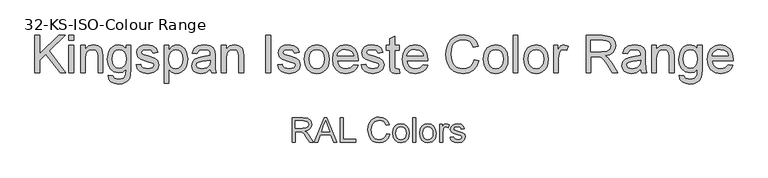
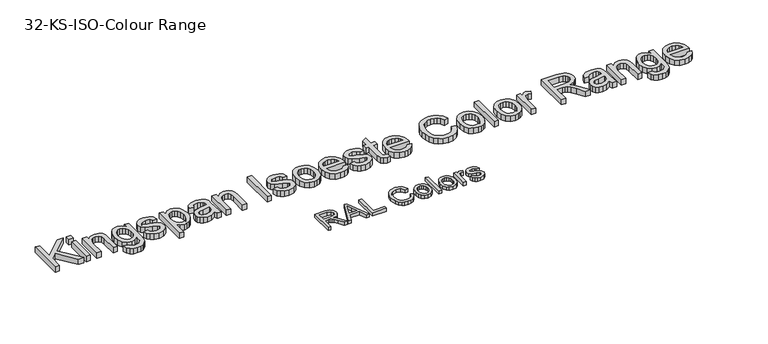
"""IFC4 building model written with IfcOpenShell, lengths in millimetres: proxy geometry, 32-KS-ISO-Colour Range : Kingspan Isoeste Color Range."""

import ifcopenshell
import ifcopenshell.guid

model = None  # the IFC model being written
_history = None  # IfcOwnerHistory: only IFC2X3 demands one
_inside = {}  # id of a spatial element -> (the spatial element, [elements in it])
_under = {}  # id of a project, library or spatial element -> (it, [spatial elements below it])
_declared = {}  # id of a project -> (the project, [libraries it declares])
_typed = {}  # id of a type object -> (the type object, [elements of that type])
_made_of = {}  # id of a material, layer set ... -> (it, [elements and type objects made of it])


def new_model(schema):
    """Start an empty IFC model of exactly this schema.

    Asked for "IFC4X3", IfcOpenShell would pick the latest addendum, in which some entities
    have other attributes; the version numbers below select the first issue.
    IFC2X3 requires an IfcOwnerHistory on every rooted entity: one is made here for all.
    """
    global model, _history
    if schema == "IFC4X3":
        model = ifcopenshell.file(schema_version=(4, 3, 0, 0))
    else:
        model = ifcopenshell.file(schema=schema)
    _inside.clear()
    _under.clear()
    _declared.clear()
    _typed.clear()
    _made_of.clear()
    _history = None
    if model.schema == "IFC2X3":
        org = make("IfcOrganization", Name="unknown")
        user = make(
            "IfcPersonAndOrganization",
            ThePerson=make("IfcPerson", FamilyName="unknown"),
            TheOrganization=org,
        )
        app = make(
            "IfcApplication",
            ApplicationDeveloper=org,
            Version="unknown",
            ApplicationFullName="unknown",
            ApplicationIdentifier="unknown",
        )
        _history = make(
            "IfcOwnerHistory",
            OwningUser=user,
            OwningApplication=app,
            ChangeAction="ADDED",
            CreationDate=0,
        )
    return model


def make(cls, **values):
    """One entity of the class cls with the attributes given. An attribute that is None is left unset."""
    return model.create_entity(
        cls, **{name: value for name, value in values.items() if value is not None}
    )


def rooted(cls, **values):
    """An entity with a GlobalId (a new one), such as an element, a storey or a relation."""
    return make(cls, GlobalId=ifcopenshell.guid.new(), OwnerHistory=_history, **values)


def si_unit(unit_type, name, prefix=None):
    """IfcSIUnit, for example si_unit("LENGTHUNIT", "METRE", prefix="MILLI")."""
    return make("IfcSIUnit", UnitType=unit_type, Prefix=prefix, Name=name)


def assignment(units):
    """IfcUnitAssignment: the units of a project."""
    return None if units is None else make("IfcUnitAssignment", Units=units)


def point(xyz):
    """IfcCartesianPoint."""
    return None if xyz is None else make("IfcCartesianPoint", Coordinates=xyz)


def direction(xyz):
    """IfcDirection."""
    return None if xyz is None else make("IfcDirection", DirectionRatios=xyz)


def frame(location, z_axis=None, x_axis=None):
    """IfcAxis2Placement3D, a coordinate frame: its origin and axes. An axis left out is left unset."""
    return make(
        "IfcAxis2Placement3D",
        Location=point(location),
        Axis=direction(z_axis),
        RefDirection=direction(x_axis),
    )


def origin():
    """The frame at (0, 0, 0) with its axes left unset."""
    return frame((0.0, 0.0, 0.0))


def origin_with_axes():
    """The frame at (0, 0, 0) with the z axis (0, 0, 1) and the x axis (1, 0, 0) written out."""
    return frame((0.0, 0.0, 0.0), z_axis=(0.0, 0.0, 1.0), x_axis=(1.0, 0.0, 0.0))


def place(relative_to, where):
    """IfcLocalPlacement: puts the frame where relative to a parent placement (None: the world)."""
    return make(
        "IfcLocalPlacement", PlacementRelTo=relative_to, RelativePlacement=where
    )


def context(
    kind, dimensions, precision=None, world=None, true_north=None, identifier=None
):
    """IfcGeometricRepresentationContext, for example the 3D "Model" context."""
    return make(
        "IfcGeometricRepresentationContext",
        ContextIdentifier=identifier,
        ContextType=kind,
        CoordinateSpaceDimension=dimensions,
        Precision=precision,
        WorldCoordinateSystem=world,
        TrueNorth=true_north,
    )


def project(units=None, contexts=None):
    """IfcProject with its units and contexts."""
    return rooted(
        "IfcProject",
        Name="project",
        RepresentationContexts=contexts,
        UnitsInContext=assignment(units),
    )


def spatial(cls, under=None, at=None, **own):
    """A site, building, storey or space (cls), placed at a placement, below another one or the project."""
    s = rooted(cls, ObjectPlacement=at, **own)
    if under is not None:
        _under.setdefault(under.id(), (under, []))[1].append(s)
    return s


def polyline(points):
    """IfcPolyline through the points."""
    return make("IfcPolyline", Points=[point(p) for p in points])


def outline(outer, holes=None, kind="AREA"):
    """IfcArbitraryClosedProfileDef: a profile drawn as a closed curve; with holes, ...WithVoids."""
    if holes is None:
        return make("IfcArbitraryClosedProfileDef", ProfileType=kind, OuterCurve=outer)
    return make(
        "IfcArbitraryProfileDefWithVoids",
        ProfileType=kind,
        OuterCurve=outer,
        InnerCurves=holes,
    )


def extrude(swept, where, along, depth):
    """IfcExtrudedAreaSolid: the profile swept, set in the frame where, extruded along a direction by depth."""
    return make(
        "IfcExtrudedAreaSolid",
        SweptArea=swept,
        Position=where,
        ExtrudedDirection=direction(along),
        Depth=depth,
    )


def shape(context_of_items, identifier, shape_type, items):
    """IfcShapeRepresentation: the items that make up one representation, for example the "Body"."""
    return make(
        "IfcShapeRepresentation",
        ContextOfItems=context_of_items,
        RepresentationIdentifier=identifier,
        RepresentationType=shape_type,
        Items=items,
    )


def source(mapping_origin, context_of_items, identifier, shape_type, items):
    """IfcRepresentationMap: a shape defined once, which mapped items show again and again."""
    return make(
        "IfcRepresentationMap",
        MappingOrigin=mapping_origin,
        MappedRepresentation=shape(context_of_items, identifier, shape_type, items),
    )


def transform(
    local_origin,
    x_axis=None,
    y_axis=None,
    z_axis=None,
    scale=None,
    scale2=None,
    scale3=None,
    uniform=True,
):
    """IfcCartesianTransformationOperator3D, or its non-uniform kind. x_axis, y_axis, z_axis: its Axis1, 2, 3."""
    if uniform:
        return make(
            "IfcCartesianTransformationOperator3D",
            Axis1=direction(x_axis),
            Axis2=direction(y_axis),
            LocalOrigin=point(local_origin),
            Scale=scale,
            Axis3=direction(z_axis),
        )
    return make(
        "IfcCartesianTransformationOperator3DnonUniform",
        Axis1=direction(x_axis),
        Axis2=direction(y_axis),
        LocalOrigin=point(local_origin),
        Scale=scale,
        Axis3=direction(z_axis),
        Scale2=scale2,
        Scale3=scale3,
    )


def mapped(mapping_source, mapping_target):
    """IfcMappedItem: shows the shape of a source again, moved by a transform."""
    return make(
        "IfcMappedItem", MappingSource=mapping_source, MappingTarget=mapping_target
    )


def made_of(thing, what):
    """Note that an element or type object is made of a material, layer set ...; save() writes the relation."""
    if what is not None:
        _made_of.setdefault(what.id(), (what, []))[1].append(thing)
    return thing


def element(
    cls,
    number,
    at=None,
    inside=None,
    cuts=None,
    type_object=None,
    material=None,
    context=None,
    identifier="Body",
    shape_type=None,
    held_by="IfcProductDefinitionShape",
    body=None,
    shapes=None,
    **own,
):
    """One element of the class cls, such as IfcWall. Its Tag is "e" and its number.

    at: its placement. inside: the storey or other place that contains it. cuts: it is an
    opening in that element (IfcRelVoidsElement). A single representation is given by context,
    identifier, shape_type and body (its items); several are given by shapes. held_by: the class
    of the entity that holds the representations. save() writes the other relations.
    """
    e = rooted(cls, Tag="e%d" % number, ObjectPlacement=at, **own)
    if body is not None:
        shapes = [shape(context, identifier, shape_type, body)]
    if shapes is not None:
        e.Representation = make(held_by, Representations=shapes)
    if inside is not None:
        _inside.setdefault(inside.id(), (inside, []))[1].append(e)
    if cuts is not None:
        rooted(
            "IfcRelVoidsElement", RelatingBuildingElement=cuts, RelatedOpeningElement=e
        )
    if type_object is not None:
        _typed.setdefault(type_object.id(), (type_object, []))[1].append(e)
    return made_of(e, material)


def aggregate(whole, parts):
    """IfcRelAggregates: a whole, such as a stair, and the parts it consists of."""
    return rooted("IfcRelAggregates", RelatingObject=whole, RelatedObjects=parts)


def save(model, path):
    """Write the relations noted so far, then the file.

    IfcRelAggregates (storeys below a building ...), IfcRelContainedInSpatialStructure (elements
    in a storey), IfcRelDefinesByType, IfcRelAssociatesMaterial and IfcRelDeclares: one each for
    every whole, place, type object, material and project.
    """
    for whole, parts in _under.values():
        aggregate(whole, parts)
    for where, things in _inside.values():
        rooted(
            "IfcRelContainedInSpatialStructure",
            RelatedElements=things,
            RelatingStructure=where,
        )
    for kind, things in _typed.values():
        rooted("IfcRelDefinesByType", RelatedObjects=things, RelatingType=kind)
    for what, things in _made_of.values():
        rooted("IfcRelAssociatesMaterial", RelatedObjects=things, RelatingMaterial=what)
    for by, libraries in _declared.values():
        rooted("IfcRelDeclares", RelatingContext=by, RelatedDefinitions=libraries)
    model.write(path)


def proxy_32_ks_iso_colour_range_06d69407(model_context):
    return source(origin(), model_context, "Body", "SweptSolid", [
        extrude(outline(polyline([(-1397.4013121, 700.0), (-1397.4013121, 850.6844652), (-1378.5657539, 850.6844652), (-1378.5657539, 776.9241252), (-1301.310535, 850.6844652), (-1274.9701841, 850.6844652), (-1339.8277798, 788.7331372), (-1272.6157393, 700.0), (-1295.6451522, 700.0), (-1353.1818963, 776.0044202), (-1378.5657539, 751.7977849), (-1378.5657539, 700.0), (-1397.4013121, 700.0)])), origin_with_axes(), (0.0, 0.0, 1.0), 25.0),
        extrude(outline(polyline([(-1260.8435155, 831.8489071), (-1260.8435155, 850.6844652), (-1242.0079573, 850.6844652), (-1242.0079573, 831.8489071), (-1260.8435155, 831.8489071)])), origin_with_axes(), (0.0, 0.0, 1.0), 25.0),
        extrude(outline(polyline([(-1260.8435155, 700.0), (-1260.8435155, 810.6589041), (-1242.0079573, 810.6589041), (-1242.0079573, 700.0), (-1260.8435155, 700.0)])), origin_with_axes(), (0.0, 0.0, 1.0), 25.0),
        extrude(outline(polyline([(-1213.7546201, 700.0), (-1213.7546201, 810.6589041), (-1194.9190619, 810.6589041), (-1194.9190619, 795.2078604), (-1180.5164818, 808.5619768), (-1160.8531892, 813.0133489), (-1143.0660947, 809.4264995), (-1130.9259889, 800.0087204), (-1125.2790003, 786.1579633), (-1124.2857189, 767.9478045), (-1124.2857189, 700.0), (-1143.121277, 700.0), (-1143.121277, 765.4094187), (-1145.2917808, 782.0744731), (-1152.9621204, 790.8852469), (-1165.8931725, 794.1777908), (-1176.9250339, 792.3291837), (-1186.3290174, 786.7833627), (-1192.7715508, 776.0687996), (-1194.9190619, 758.7139664), (-1194.9190619, 700.0), (-1213.7546201, 700.0)])), origin_with_axes(), (0.0, 0.0, 1.0), 25.0),
        extrude(outline(polyline([(-1103.095716, 690.5822209), (-1084.2601578, 688.2277762), (-1078.1533167, 678.2949623), (-1059.8695815, 674.1011075), (-1040.592565, 678.8467853), (-1031.3955151, 692.1641135), (-1030.1079281, 714.1266686), (-1043.370074, 703.5316672), (-1059.5384877, 700.0), (-1078.9580585, 704.1110813), (-1093.4388136, 716.4443252), (-1102.4473239, 734.5257252), (-1105.4501607, 755.8812751), (-1100.0606895, 785.0727114), (-1093.4664047, 796.9231102), (-1084.4624929, 805.7292854), (-1073.3570552, 811.192333), (-1060.4581927, 813.0133489), (-1043.6551826, 808.8930706), (-1030.1079281, 796.5322355), (-1030.1079281, 810.6589041), (-1011.27237, 810.6589041), (-1011.27237, 715.11995), (-1012.5599569, 693.0608259), (-1016.4227179, 678.5340856), (-1023.0767835, 668.9001758), (-1032.7382844, 661.5195433), (-1045.1956884, 656.8290479), (-1060.2374635, 655.2655494), (-1077.7624421, 657.4682428), (-1091.5626154, 664.0763232), (-1100.4147759, 675.1081845), (-1103.095716, 690.5822209)]), holes=[polyline([(-1086.6146026, 757.1688621), (-1084.6050472, 739.8922039), (-1078.576381, 728.0142139), (-1069.5126883, 721.1302221), (-1058.3980535, 718.8355582), (-1047.3661922, 721.1164265), (-1038.2565143, 727.9590316), (-1032.1450747, 739.6852702), (-1030.1079281, 756.6170391), (-1032.2048555, 772.9464011), (-1038.4956376, 784.7048294), (-1047.7386727, 791.8095504), (-1058.6923591, 794.1777908), (-1069.448309, 791.8463386), (-1078.4660164, 784.8519822), (-1084.577456, 773.2682979), (-1086.6146026, 757.1688621)])]), origin_with_axes(), (0.0, 0.0, 1.0), 25.0),
        extrude(outline(polyline([(-990.082367, 732.9622268), (-971.2468089, 735.3166715), (-968.2761618, 727.2600558), (-962.5280056, 721.3371557), (-942.5520133, 716.4811134), (-923.3485731, 720.9324855), (-917.0945792, 731.3803342), (-918.6672747, 736.1811942), (-923.3853613, 739.8416201), (-942.7727425, 745.2126972), (-971.1364443, 754.4281412), (-983.5156734, 765.1886895), (-987.7279223, 780.3822159), (-984.3434079, 794.4169141), (-975.1095698, 805.1406742), (-963.1350109, 810.7140864), (-946.929809, 813.0133489), (-924.0107607, 809.3161349), (-909.4426337, 799.3097446), (-902.9679106, 782.4055669), (-921.8034687, 780.0511222), (-928.8851971, 790.4437885), (-945.458281, 794.1777908), (-963.4844988, 790.6093354), (-968.8923641, 782.2952023), (-966.6482839, 776.8137606), (-959.6217378, 772.656694), (-943.3981418, 768.6467803), (-915.7518099, 759.7808242), (-902.9127283, 749.7376457), (-898.259021, 733.366897), (-903.7220687, 715.3406792), (-919.4858122, 702.2624743), (-942.8095307, 697.6455552), (-961.8014387, 699.8712413), (-975.6613928, 706.5482995), (-984.913625, 717.6031535), (-990.082367, 732.9622268)])), origin_with_axes(), (0.0, 0.0, 1.0), 25.0),
        extrude(outline(polyline([(-877.0690181, 657.6199942), (-877.0690181, 810.6589041), (-858.23346, 810.6589041), (-858.23346, 792.191228), (-845.2104373, 807.8078187), (-827.625678, 813.0133489), (-814.8877639, 811.192333), (-803.7501365, 805.7292854), (-794.6818453, 796.9552998), (-788.1519399, 785.2014701), (-782.8912273, 756.1755807), (-784.3765509, 740.0669478), (-788.8325216, 725.6597692), (-796.1165851, 713.6852102), (-806.0861871, 704.8744364), (-817.6974626, 699.4527755), (-829.9065463, 697.6455552), (-846.2956892, 702.4832035), (-858.23346, 714.7152798), (-858.23346, 657.6199942), (-877.0690181, 657.6199942)]), holes=[polyline([(-858.23346, 754.4465353), (-856.1963134, 737.5607517), (-850.0848738, 725.7517397), (-841.0671664, 718.79877), (-830.3112165, 716.4811134), (-819.3805227, 718.8815434), (-810.1328891, 726.0828335), (-803.8283114, 738.3241068), (-801.7267855, 755.8444869), (-803.7777276, 772.6382999), (-809.930554, 784.6128589), (-818.9344658, 791.7865578), (-829.5386643, 794.1777908), (-840.1842496, 791.6348065), (-849.5330508, 784.0058536), (-856.0583577, 771.5300554), (-858.23346, 754.4465353)])]), origin_with_axes(), (0.0, 0.0, 1.0), 25.0),
        extrude(outline(polyline([(-691.0678814, 714.1266686), (-709.3332224, 701.3611634), (-729.5115498, 697.6455552), (-745.2523007, 699.8804384), (-756.8635762, 706.5850877), (-764.0234795, 716.7662219), (-766.410114, 729.4305596), (-762.8048704, 744.3297804), (-753.331909, 755.1455111), (-740.1433395, 761.3259286), (-723.8461671, 764.15862), (-691.178246, 770.6333431), (-691.0678814, 774.8271978), (-692.3646654, 783.2333014), (-696.2550175, 788.7331372), (-704.9554267, 792.8166274), (-717.0771384, 794.1777908), (-736.1334258, 790.5541531), (-745.220111, 777.6966774), (-764.0556692, 780.0511222), (-755.907083, 798.4452219), (-739.499546, 809.2241644), (-714.6491172, 813.0133489), (-691.8220394, 809.6656228), (-678.9277755, 801.2595192), (-673.1520282, 788.4756198), (-672.2323232, 771.9945065), (-672.2323232, 748.5604234), (-671.27583, 715.8373199), (-667.5234337, 700.0), (-686.3589918, 700.0), (-691.0678814, 714.1266686)]), holes=[polyline([(-691.0678814, 751.7977849), (-721.4549342, 746.0220376), (-737.660136, 742.968617), (-744.9993818, 738.0022101), (-747.5745558, 730.7549348), (-741.9643554, 720.5646035), (-725.5016361, 716.4811134), (-706.4453488, 720.9876678), (-694.1580901, 731.895369), (-691.178246, 746.463496), (-691.0678814, 751.7977849)])]), origin_with_axes(), (0.0, 0.0, 1.0), 25.0),
        extrude(outline(polyline([(-646.3334307, 700.0), (-646.3334307, 810.6589041), (-627.4978726, 810.6589041), (-627.4978726, 795.2078604), (-613.0952925, 808.5619768), (-593.4319998, 813.0133489), (-575.6449054, 809.4264995), (-563.5047995, 800.0087204), (-557.8578109, 786.1579633), (-556.8645295, 767.9478045), (-556.8645295, 700.0), (-575.7000877, 700.0), (-575.7000877, 765.4094187), (-577.8705914, 782.0744731), (-585.540931, 790.8852469), (-598.4719832, 794.1777908), (-609.5038445, 792.3291837), (-618.907828, 786.7833627), (-625.3503614, 776.0687996), (-627.4978726, 758.7139664), (-627.4978726, 700.0), (-646.3334307, 700.0)])), origin_with_axes(), (0.0, 0.0, 1.0), 25.0),
        extrude(outline(polyline([(-467.3956283, 700.0), (-467.3956283, 850.6844652), (-448.5600701, 850.6844652), (-448.5600701, 700.0), (-467.3956283, 700.0)])), origin_with_axes(), (0.0, 0.0, 1.0), 25.0),
        extrude(outline(polyline([(-420.3067329, 732.9622268), (-401.4711747, 735.3166715), (-398.5005276, 727.2600558), (-392.7523715, 721.3371557), (-372.7763791, 716.4811134), (-353.572939, 720.9324855), (-347.3189451, 731.3803342), (-348.8916406, 736.1811942), (-353.6097272, 739.8416201), (-372.9971083, 745.2126972), (-401.3608102, 754.4281412), (-413.7400393, 765.1886895), (-417.9522881, 780.3822159), (-414.5677738, 794.4169141), (-405.3339357, 805.1406742), (-393.3593768, 810.7140864), (-377.1541749, 813.0133489), (-354.2351266, 809.3161349), (-339.6669996, 799.3097446), (-333.1922764, 782.4055669), (-352.0278346, 780.0511222), (-359.109563, 790.4437885), (-375.6826469, 794.1777908), (-393.7088647, 790.6093354), (-399.11673, 782.2952023), (-396.8726498, 776.8137606), (-389.8461037, 772.656694), (-373.6225077, 768.6467803), (-345.9761758, 759.7808242), (-333.1370941, 749.7376457), (-328.4833869, 733.366897), (-333.9464345, 715.3406792), (-349.710178, 702.2624743), (-373.0338965, 697.6455552), (-392.0258045, 699.8712413), (-405.8857587, 706.5482995), (-415.1379909, 717.6031535), (-420.3067329, 732.9622268)])), origin_with_axes(), (0.0, 0.0, 1.0), 25.0),
        extrude(outline(polyline([(-312.0022735, 755.3294521), (-307.9279804, 782.0100938), (-295.7051011, 800.7628785), (-280.6035452, 809.9507313), (-262.5221452, 813.0133489), (-242.7346924, 809.2839452), (-226.9295621, 798.095734), (-216.5690854, 780.3316322), (-213.1155932, 756.8745565), (-214.6423035, 737.8458603), (-219.2224343, 723.3605067), (-226.7226285, 712.5125864), (-237.0095288, 704.3961898), (-249.2278096, 699.3332139), (-262.5221452, 697.6455552), (-282.5487213, 701.3611634), (-298.3354574, 712.5079878), (-308.5855695, 730.6445702), (-312.0022735, 755.3294521)]), holes=[polyline([(-293.1667154, 755.3662403), (-290.9870145, 738.3195083), (-284.4479121, 726.174804), (-274.6070687, 718.904536), (-262.5221452, 716.4811134), (-250.4924039, 718.9183316), (-240.6699547, 726.2299863), (-234.1308522, 738.535639), (-231.9511514, 755.9548515), (-234.1446478, 772.5049427), (-240.725137, 784.4841002), (-250.5613818, 791.7543681), (-262.5221452, 794.1777908), (-274.6070687, 791.7635652), (-284.4479121, 784.5208884), (-290.9870145, 772.4037752), (-293.1667154, 755.3662403)])]), origin_with_axes(), (0.0, 0.0, 1.0), 25.0),
        extrude(outline(polyline([(-114.4496421, 732.9622268), (-95.981966, 730.607782), (-102.6360315, 716.6926455), (-113.2540256, 706.2907821), (-127.5968249, 699.806862), (-145.4253061, 697.6455552), (-167.525817, 701.374959), (-184.5311622, 712.5631701), (-195.374484, 730.4836218), (-198.9889246, 754.4097471), (-195.3376958, 779.1406142), (-184.3840094, 797.6358815), (-167.6085904, 809.1689821), (-146.4921639, 813.0133489), (-126.0333264, 809.1781791), (-109.6855703, 797.6726697), (-98.9664086, 779.2141906), (-95.3933548, 754.5201117), (-95.5037194, 749.4433402), (-180.1533665, 749.4433402), (-176.8930123, 735.3442627), (-169.3192417, 724.9791875), (-158.3885479, 718.6056319), (-145.0574241, 716.4811134), (-126.589748, 720.4174507), (-114.4496421, 732.9622268)]), holes=[polyline([(-180.1533665, 768.2788983), (-114.2289129, 768.2788983), (-116.7764957, 778.2301063), (-121.7704938, 785.3486229), (-132.7517714, 791.9704988), (-146.5657403, 794.1777908), (-159.2622677, 792.4165557), (-169.7607001, 787.1328506), (-177.0585592, 778.8968924), (-180.1533665, 768.2788983)])]), origin_with_axes(), (0.0, 0.0, 1.0), 25.0),
        extrude(outline(polyline([(-83.6211309, 732.9622268), (-64.7855728, 735.3166715), (-61.8149257, 727.2600558), (-56.0667695, 721.3371557), (-36.0907771, 716.4811134), (-16.887337, 720.9324855), (-10.6333431, 731.3803342), (-12.2060386, 736.1811942), (-16.9241252, 739.8416201), (-36.3115063, 745.2126972), (-64.6752082, 754.4281412), (-77.0544373, 765.1886895), (-81.2666861, 780.3822159), (-77.8821718, 794.4169141), (-68.6483337, 805.1406742), (-56.6737748, 810.7140864), (-40.4685729, 813.0133489), (-17.5495246, 809.3161349), (-2.9813976, 799.3097446), (3.4933255, 782.4055669), (-15.3422326, 780.0511222), (-22.423961, 790.4437885), (-38.9970449, 794.1777908), (-57.0232627, 790.6093354), (-62.431128, 782.2952023), (-60.1870478, 776.8137606), (-53.1605017, 772.656694), (-36.9369057, 768.6467803), (-9.2905738, 759.7808242), (3.5485078, 749.7376457), (8.2022151, 733.366897), (2.7391675, 715.3406792), (-13.024576, 702.2624743), (-36.3482945, 697.6455552), (-55.3402025, 699.8712413), (-69.2001567, 706.5482995), (-78.4523889, 717.6031535), (-83.6211309, 732.9622268)])), origin_with_axes(), (0.0, 0.0, 1.0), 25.0),
        extrude(outline(polyline([(69.4177791, 715.7085612), (71.7722238, 699.448177), (57.6823434, 697.6455552), (41.9002058, 700.7725522), (34.0275311, 708.9763207), (31.7466628, 730.3502646), (31.7466628, 791.823346), (17.6199942, 791.823346), (17.6199942, 810.6589041), (31.7466628, 810.6589041), (31.7466628, 837.551078), (50.5822209, 848.6243261), (50.5822209, 810.6589041), (69.4177791, 810.6589041), (69.4177791, 791.823346), (50.5822209, 791.823346), (50.5822209, 730.9020876), (51.5755023, 721.1900029), (54.7944698, 717.7503063), (61.2140106, 716.4811134), (69.4177791, 715.7085612)])), origin_with_axes(), (0.0, 0.0, 1.0), 25.0),
        extrude(outline(polyline([(165.7292854, 732.9622268), (184.1969616, 730.607782), (177.542896, 716.6926455), (166.9249019, 706.2907821), (152.5821026, 699.806862), (134.7536214, 697.6455552), (112.6531106, 701.374959), (95.6477653, 712.5631701), (84.8044435, 730.4836218), (81.1900029, 754.4097471), (84.8412317, 779.1406142), (95.7949181, 797.6358815), (112.5703371, 809.1689821), (133.6867636, 813.0133489), (154.1456011, 809.1781791), (170.4933573, 797.6726697), (181.2125189, 779.2141906), (184.7855728, 754.5201117), (184.6752082, 749.4433402), (100.0255611, 749.4433402), (103.2859153, 735.3442627), (110.8596858, 724.9791875), (121.7903796, 718.6056319), (135.1215034, 716.4811134), (153.5891796, 720.4174507), (165.7292854, 732.9622268)]), holes=[polyline([(100.0255611, 768.2788983), (165.9500146, 768.2788983), (163.4024318, 778.2301063), (158.4084337, 785.3486229), (147.4271562, 791.9704988), (133.6131872, 794.1777908), (120.9166599, 792.4165557), (110.4182274, 787.1328506), (103.1203684, 778.8968924), (100.0255611, 768.2788983)])]), origin_with_axes(), (0.0, 0.0, 1.0), 25.0),
        extrude(outline(polyline([(370.7867095, 753.5636185), (389.6222677, 748.7075762), (380.9310555, 726.7588166), (367.2918306, 710.7237602), (349.3759774, 700.9151065), (327.8548807, 697.6455552), (306.0072887, 700.1195616), (288.6570541, 707.5415809), (275.35812, 719.6540956), (265.6644294, 736.1995883), (259.7461278, 755.6513488), (257.7733606, 776.4826668), (260.0036452, 798.454419), (266.694499, 817.4279329), (277.4964341, 832.8008017), (292.0599626, 843.9706188), (309.3320222, 850.7718372), (328.2595509, 853.03891), (348.9115264, 850.1050511), (365.9858495, 841.3034743), (378.9490913, 827.1768057), (387.2678229, 808.2676712), (368.4322648, 803.7795108), (361.9023593, 817.5153048), (352.981221, 826.9376824), (341.558485, 832.3869345), (327.5237869, 834.2033518), (311.3461762, 832.1891979), (298.0564391, 826.1467361), (287.9718739, 816.710563), (281.4097788, 804.5152748), (276.6089188, 776.519455), (278.029863, 759.1186366), (282.2926956, 744.072263), (289.558365, 731.9551498), (299.9878196, 723.3421126), (312.4912089, 718.1963632), (325.9786825, 716.4811134), (341.7010393, 718.8171641), (354.8022368, 725.8253161), (364.693664, 737.431993), (370.7867095, 753.5636185)])), origin_with_axes(), (0.0, 0.0, 1.0), 25.0),
        extrude(outline(polyline([(408.4578258, 755.3294521), (412.5321189, 782.0100938), (424.7549982, 800.7628785), (439.8565541, 809.9507313), (457.9379542, 813.0133489), (477.725407, 809.2839452), (493.5305372, 798.095734), (503.8910139, 780.3316322), (507.3445061, 756.8745565), (505.8177959, 737.8458603), (501.237665, 723.3605067), (493.7374708, 712.5125864), (483.4505705, 704.3961898), (471.2322898, 699.3332139), (457.9379542, 697.6455552), (437.9113781, 701.3611634), (422.124642, 712.5079878), (411.8745299, 730.6445702), (408.4578258, 755.3294521)]), holes=[polyline([(427.293384, 755.3662403), (429.4730848, 738.3195083), (436.0121873, 726.174804), (445.8530306, 718.904536), (457.9379542, 716.4811134), (469.9676954, 718.9183316), (479.7901447, 726.2299863), (486.3292472, 738.535639), (488.508948, 755.9548515), (486.3154516, 772.5049427), (479.7349624, 784.4841002), (469.8987176, 791.7543681), (457.9379542, 794.1777908), (445.8530306, 791.7635652), (436.0121873, 784.5208884), (429.4730848, 772.4037752), (427.293384, 755.3662403)])]), origin_with_axes(), (0.0, 0.0, 1.0), 25.0),
        extrude(outline(polyline([(528.5345091, 700.0), (528.5345091, 850.6844652), (547.3700672, 850.6844652), (547.3700672, 700.0), (528.5345091, 700.0)])), origin_with_axes(), (0.0, 0.0, 1.0), 25.0),
        extrude(outline(polyline([(570.9145149, 755.3294521), (574.988808, 782.0100938), (587.2116873, 800.7628785), (602.3132432, 809.9507313), (620.3946433, 813.0133489), (640.1820961, 809.2839452), (655.9872263, 798.095734), (666.347703, 780.3316322), (669.8011952, 756.8745565), (668.2744849, 737.8458603), (663.6943541, 723.3605067), (656.1941599, 712.5125864), (645.9072596, 704.3961898), (633.6889789, 699.3332139), (620.3946433, 697.6455552), (600.3680671, 701.3611634), (584.581331, 712.5079878), (574.3312189, 730.6445702), (570.9145149, 755.3294521)]), holes=[polyline([(589.7500731, 755.3662403), (591.9297739, 738.3195083), (598.4688763, 726.174804), (608.3097197, 718.904536), (620.3946433, 716.4811134), (632.4243845, 718.9183316), (642.2468338, 726.2299863), (648.7859362, 738.535639), (650.9656371, 755.9548515), (648.7721407, 772.5049427), (642.1916515, 784.4841002), (632.3554066, 791.7543681), (620.3946433, 794.1777908), (608.3097197, 791.7635652), (598.4688763, 784.5208884), (591.9297739, 772.4037752), (589.7500731, 755.3662403)])]), origin_with_axes(), (0.0, 0.0, 1.0), 25.0),
        extrude(outline(polyline([(690.9911981, 700.0), (690.9911981, 810.6589041), (707.4723115, 810.6589041), (707.4723115, 794.2881554), (719.170959, 809.3713172), (730.9431828, 813.0133489), (749.8523174, 807.2008134), (743.5615352, 790.3150298), (730.3177834, 794.1777908), (719.6675997, 790.4621826), (712.8801768, 780.1614867), (709.8267563, 758.1621434), (709.8267563, 700.0), (690.9911981, 700.0)])), origin_with_axes(), (0.0, 0.0, 1.0), 25.0),
        extrude(outline(polyline([(822.8401052, 700.0), (822.8401052, 850.6844652), (887.7712773, 850.6844652), (917.9192069, 846.6193692), (927.1990302, 840.9907747), (934.4003202, 832.2351832), (939.0218378, 821.3780658), (940.5623437, 809.4448936), (938.0101623, 794.6008551), (930.3536183, 782.2952023), (917.3627853, 773.2728964), (898.8077372, 768.2788983), (909.5131033, 760.2222826), (924.7802061, 740.8349015), (949.9065463, 700.0), (928.0175676, 700.0), (908.4094573, 731.2331814), (894.2460005, 751.9081495), (884.2947925, 761.6754165), (875.3368659, 765.2622659), (864.4107707, 765.9244535), (841.6756634, 765.9244535), (841.6756634, 700.0), (822.8401052, 700.0)]), holes=[polyline([(841.6756634, 784.7600117), (883.83494, 784.7600117), (905.3376426, 787.4271562), (917.5513249, 795.9620184), (921.7267855, 808.7459178), (919.7356242, 817.9337706), (913.7621403, 825.3373958), (903.4844371, 830.2210292), (888.5806177, 831.8489071), (841.6756634, 831.8489071), (841.6756634, 784.7600117)])]), origin_with_axes(), (0.0, 0.0, 1.0), 25.0),
        extrude(outline(polyline([(1041.8034687, 714.1266686), (1023.5381277, 701.3611634), (1003.3598002, 697.6455552), (987.6190494, 699.8804384), (976.0077739, 706.5850877), (968.8478706, 716.7662219), (966.4612361, 729.4305596), (970.0664797, 744.3297804), (979.539441, 755.1455111), (992.7280106, 761.3259286), (1009.025183, 764.15862), (1041.6931041, 770.6333431), (1041.8034687, 774.8271978), (1040.5066847, 783.2333014), (1036.6163326, 788.7331372), (1027.9159234, 792.8166274), (1015.7942117, 794.1777908), (996.7379243, 790.5541531), (987.651239, 777.6966774), (968.8156809, 780.0511222), (976.9642671, 798.4452219), (993.3718041, 809.2241644), (1018.2222328, 813.0133489), (1041.0493106, 809.6656228), (1053.9435746, 801.2595192), (1059.7193219, 788.4756198), (1060.6390269, 771.9945065), (1060.6390269, 748.5604234), (1061.5955201, 715.8373199), (1065.3479164, 700.0), (1046.5123583, 700.0), (1041.8034687, 714.1266686)]), holes=[polyline([(1041.8034687, 751.7977849), (1011.4164159, 746.0220376), (995.211214, 742.968617), (987.8719682, 738.0022101), (985.2967943, 730.7549348), (990.9069947, 720.5646035), (1007.369714, 716.4811134), (1026.4260013, 720.9876678), (1038.71326, 731.895369), (1041.6931041, 746.463496), (1041.8034687, 751.7977849)])]), origin_with_axes(), (0.0, 0.0, 1.0), 25.0),
        extrude(outline(polyline([(1086.5379193, 700.0), (1086.5379193, 810.6589041), (1105.3734775, 810.6589041), (1105.3734775, 795.2078604), (1119.7760576, 808.5619768), (1139.4393502, 813.0133489), (1157.2264447, 809.4264995), (1169.3665506, 800.0087204), (1175.0135392, 786.1579633), (1176.0068206, 767.9478045), (1176.0068206, 700.0), (1157.1712624, 700.0), (1157.1712624, 765.4094187), (1155.0007586, 782.0744731), (1147.330419, 790.8852469), (1134.3993669, 794.1777908), (1123.3675056, 792.3291837), (1113.9635221, 786.7833627), (1107.5209886, 776.0687996), (1105.3734775, 758.7139664), (1105.3734775, 700.0), (1086.5379193, 700.0)])), origin_with_axes(), (0.0, 0.0, 1.0), 25.0),
        extrude(outline(polyline([(1197.1968235, 690.5822209), (1216.0323816, 688.2277762), (1222.1392228, 678.2949623), (1240.4229579, 674.1011075), (1259.6999745, 678.8467853), (1268.8970244, 692.1641135), (1270.1846113, 714.1266686), (1256.9224654, 703.5316672), (1240.7540517, 700.0), (1221.3344809, 704.1110813), (1206.8537259, 716.4443252), (1197.8452155, 734.5257252), (1194.8423787, 755.8812751), (1200.23185, 785.0727114), (1206.8261347, 796.9231102), (1215.8300465, 805.7292854), (1226.9354843, 811.192333), (1239.8343467, 813.0133489), (1256.6373569, 808.8930706), (1270.1846113, 796.5322355), (1270.1846113, 810.6589041), (1289.0201695, 810.6589041), (1289.0201695, 715.11995), (1287.7325825, 693.0608259), (1283.8698216, 678.5340856), (1277.215756, 668.9001758), (1267.5542551, 661.5195433), (1255.096851, 656.8290479), (1240.0550759, 655.2655494), (1222.5300974, 657.4682428), (1208.729924, 664.0763232), (1199.8777635, 675.1081845), (1197.1968235, 690.5822209)]), holes=[polyline([(1213.6779369, 757.1688621), (1215.6874923, 739.8922039), (1221.7161585, 728.0142139), (1230.7798511, 721.1302221), (1241.8944859, 718.8355582), (1252.9263472, 721.1164265), (1262.0360251, 727.9590316), (1268.1474648, 739.6852702), (1270.1846113, 756.6170391), (1268.087684, 772.9464011), (1261.7969018, 784.7048294), (1252.5538667, 791.8095504), (1241.6001803, 794.1777908), (1230.8442305, 791.8463386), (1221.8265231, 784.8519822), (1215.7150834, 773.2682979), (1213.6779369, 757.1688621)])]), origin_with_axes(), (0.0, 0.0, 1.0), 25.0),
        extrude(outline(polyline([(1394.7494549, 732.9622268), (1413.2171311, 730.607782), (1406.5630655, 716.6926455), (1395.9450714, 706.2907821), (1381.6022721, 699.806862), (1363.7737909, 697.6455552), (1341.67328, 701.374959), (1324.6679348, 712.5631701), (1313.824613, 730.4836218), (1310.2101724, 754.4097471), (1313.8614012, 779.1406142), (1324.8150876, 797.6358815), (1341.5905066, 809.1689821), (1362.7069331, 813.0133489), (1383.1657706, 809.1781791), (1399.5135267, 797.6726697), (1410.2326884, 779.2141906), (1413.8057423, 754.5201117), (1413.6953777, 749.4433402), (1329.0457306, 749.4433402), (1332.3060847, 735.3442627), (1339.8798553, 724.9791875), (1350.8105491, 718.6056319), (1364.1416729, 716.4811134), (1382.6093491, 720.4174507), (1394.7494549, 732.9622268)]), holes=[polyline([(1329.0457306, 768.2788983), (1394.9701841, 768.2788983), (1392.4226013, 778.2301063), (1387.4286032, 785.3486229), (1376.4473256, 791.9704988), (1362.6333567, 794.1777908), (1349.9368294, 792.4165557), (1339.4383969, 787.1328506), (1332.1405378, 778.8968924), (1329.0457306, 768.2788983)])]), origin_with_axes(), (0.0, 0.0, 1.0), 25.0),
        extrude(outline(polyline([(-361.4711747, 420.0), (-361.4711747, 520.4563101), (-318.1837267, 520.4563101), (-298.085107, 517.7462461), (-287.0976981, 508.1567888), (-282.9896824, 492.9632624), (-284.6911367, 483.0672367), (-289.7954994, 474.8634682), (-298.4560547, 468.8485976), (-310.8260867, 465.5192655), (-303.689176, 460.1481884), (-293.5111075, 447.2232676), (-276.760214, 420.0), (-291.3528665, 420.0), (-304.42494, 440.8221209), (-313.8672446, 454.605433), (-320.5013832, 461.1169443), (-326.4733343, 463.5081773), (-333.7573978, 463.9496357), (-348.914136, 463.9496357), (-348.914136, 420.0), (-361.4711747, 420.0)]), holes=[polyline([(-348.914136, 476.5066745), (-320.8079515, 476.5066745), (-306.4728165, 478.2847708), (-298.3303616, 483.974679), (-295.5467212, 492.4972785), (-300.8564847, 503.5582638), (-317.6441664, 507.8992714), (-348.914136, 507.8992714), (-348.914136, 476.5066745)])]), origin_with_axes(), (0.0, 0.0, 1.0), 15.0),
        extrude(outline(polyline([(-272.713512, 420.0), (-232.6143746, 520.4563101), (-221.9212712, 520.4563101), (-181.8221338, 420.0), (-195.0904111, 420.0), (-206.5928548, 451.3925969), (-247.9673165, 451.3925969), (-259.4452348, 420.0), (-272.713512, 420.0)]), holes=[polyline([(-243.3565288, 463.9496357), (-211.179117, 463.9496357), (-220.2290141, 488.6467803), (-227.2678229, 507.8992714), (-233.5218168, 490.8050213), (-243.3565288, 463.9496357)])]), origin_with_axes(), (0.0, 0.0, 1.0), 15.0),
        extrude(outline(polyline([(-168.4067037, 420.0), (-168.4067037, 520.4563101), (-155.8496649, 520.4563101), (-155.8496649, 432.5570388), (-105.6215098, 432.5570388), (-105.6215098, 420.0), (-168.4067037, 420.0)])), origin_with_axes(), (0.0, 0.0, 1.0), 15.0),
        extrude(outline(polyline([(18.379248, 455.709079), (30.9362868, 452.4717174), (25.1421453, 437.8392111), (16.0493287, 427.1491734), (4.1054266, 420.610071), (-10.2419712, 418.4303702), (-24.8070325, 420.0797078), (-36.3738556, 425.0277206), (-45.2398117, 433.1027304), (-51.7022721, 444.1330589), (-56.9629846, 470.9884445), (-55.4761282, 485.6362793), (-51.015559, 498.2852886), (-43.814269, 508.5338678), (-34.10525, 515.9804125), (-22.5905435, 520.5145581), (-9.9721911, 522.02594), (3.7957926, 520.0700341), (15.1786746, 514.2023162), (23.8208358, 504.7845372), (29.3666569, 492.1784475), (16.8096182, 489.1863406), (6.5089223, 504.6251216), (-10.4627004, 509.4689012), (-30.107599, 504.0978241), (-41.2053725, 489.6768499), (-44.4059458, 471.01297), (-40.6167613, 449.3815087), (-28.820012, 435.5614084), (-11.49277, 430.9874089), (-1.0111988, 432.544776), (7.7229329, 437.2168774), (14.3172176, 444.954662), (18.379248, 455.709079)])), origin_with_axes(), (0.0, 0.0, 1.0), 15.0),
        extrude(outline(polyline([(43.4933255, 456.8863014), (46.2095209, 474.6733958), (54.3581071, 487.1752523), (64.4258111, 493.3004875), (76.4800778, 495.3422326), (89.671713, 492.8559635), (100.2084665, 485.397156), (107.1154509, 473.5544214), (109.4177791, 457.916371), (105.3465517, 435.5736711), (93.4884887, 422.9307932), (76.4800778, 418.4303702), (63.129027, 420.9074423), (52.6045363, 428.3386586), (45.7711282, 440.4297135), (43.4933255, 456.8863014)]), holes=[polyline([(56.0503643, 456.9108268), (57.5034982, 445.5463389), (61.8628998, 437.4498693), (68.4234621, 432.603024), (76.4800778, 430.9874089), (84.4999053, 432.6122211), (91.0482048, 437.4866575), (95.4076064, 445.690426), (96.8607403, 457.3032343), (95.3984094, 468.3366285), (91.0114166, 476.3227335), (84.45392, 481.1695787), (76.4800778, 482.7851938), (68.4234621, 481.1757101), (61.8628998, 476.3472589), (57.5034982, 468.2691835), (56.0503643, 456.9108268)])]), origin_with_axes(), (0.0, 0.0, 1.0), 15.0),
        extrude(outline(polyline([(123.5444477, 420.0), (123.5444477, 520.4563101), (136.1014865, 520.4563101), (136.1014865, 420.0), (123.5444477, 420.0)])), origin_with_axes(), (0.0, 0.0, 1.0), 15.0),
        extrude(outline(polyline([(151.7977849, 456.8863014), (154.5139803, 474.6733958), (162.6625665, 487.1752523), (172.7302704, 493.3004875), (184.7845372, 495.3422326), (197.9761724, 492.8559635), (208.5129258, 485.397156), (215.4199103, 473.5544214), (217.7222385, 457.916371), (213.651011, 435.5736711), (201.7929481, 422.9307932), (184.7845372, 418.4303702), (171.4334864, 420.9074423), (160.9089957, 428.3386586), (154.0755876, 440.4297135), (151.7977849, 456.8863014)]), holes=[polyline([(164.3548237, 456.9108268), (165.8079576, 445.5463389), (170.1673592, 437.4498693), (176.7279215, 432.603024), (184.7845372, 430.9874089), (192.8043646, 432.6122211), (199.3526642, 437.4866575), (203.7120658, 445.690426), (205.1651997, 457.3032343), (203.7028688, 468.3366285), (199.315876, 476.3227335), (192.7583794, 481.1695787), (184.7845372, 482.7851938), (176.7279215, 481.1757101), (170.1673592, 476.3472589), (165.8079576, 468.2691835), (164.3548237, 456.9108268)])]), origin_with_axes(), (0.0, 0.0, 1.0), 15.0),
        extrude(outline(polyline([(231.8489071, 420.0), (231.8489071, 493.7726028), (242.836316, 493.7726028), (242.836316, 482.8587702), (250.6354143, 492.9142114), (258.4835635, 495.3422326), (271.0896532, 491.4672089), (266.8957985, 480.2100199), (258.0666306, 482.7851938), (250.9665081, 480.3081217), (246.4415595, 473.4409912), (244.4059458, 458.7747623), (244.4059458, 420.0), (231.8489071, 420.0)])), origin_with_axes(), (0.0, 0.0, 1.0), 15.0),
        extrude(outline(polyline([(274.2289129, 441.9748178), (286.7859517, 443.5444477), (292.5984872, 434.2247705), (305.9158154, 430.9874089), (318.7181089, 433.9549904), (322.8874381, 440.9202228), (318.6935834, 446.5610801), (305.7686626, 450.1417981), (286.8595281, 456.2854275), (278.6067087, 463.4591264), (275.7985428, 473.588144), (278.0548857, 482.9446094), (284.2107777, 490.0937828), (292.193817, 493.809391), (302.9972849, 495.3422326), (318.2766505, 492.8774232), (327.9887351, 486.2064964), (332.3052172, 474.9370446), (319.7481785, 473.3674148), (315.0270262, 480.295859), (303.9783036, 482.7851938), (291.9608251, 480.4062236), (288.3555815, 474.8634682), (289.851635, 471.2091737), (294.535999, 468.437796), (305.3517297, 465.7645202), (323.7826177, 459.8538828), (332.3420054, 453.1584305), (335.4444769, 442.244598), (331.8024452, 430.2271195), (321.2932828, 421.5083162), (305.7441372, 418.4303702), (293.0828652, 419.9141609), (283.8428957, 424.365533), (277.6747409, 431.7354356), (274.2289129, 441.9748178)])), origin_with_axes(), (0.0, 0.0, 1.0), 15.0),
    ])


if __name__ == "__main__":
    model = new_model("IFC4")
    model_context = context("Model", 3, world=origin())
    ifc_project = project(units=[si_unit("LENGTHUNIT", "METRE", prefix="MILLI")], contexts=[model_context])
    site = spatial("IfcSite", under=ifc_project)
    building = spatial("IfcBuilding", under=site)
    placement = place(None, origin())
    proxy_32_ks_iso_colour_range_shape = proxy_32_ks_iso_colour_range_06d69407(model_context)
    element("IfcBuildingElementProxy", 1, Name="32-KS-ISO-Colour Range : Kingspan Isoeste Color Range", ObjectType="32-KS-ISO-Colour Range : Kingspan Isoeste Color Range", at=placement, inside=building, context=model_context, shape_type="MappedRepresentation", body=[
        mapped(proxy_32_ks_iso_colour_range_shape, transform((0.0, 0.0, 0.0), x_axis=(1.0, 0.0, 0.0), y_axis=(0.0, 1.0, 0.0), z_axis=(0.0, 0.0, 1.0))),
    ])
    save(model, "model.ifc")
